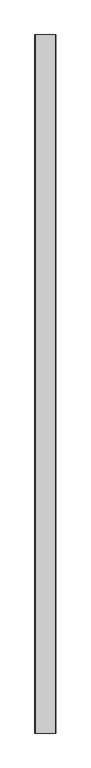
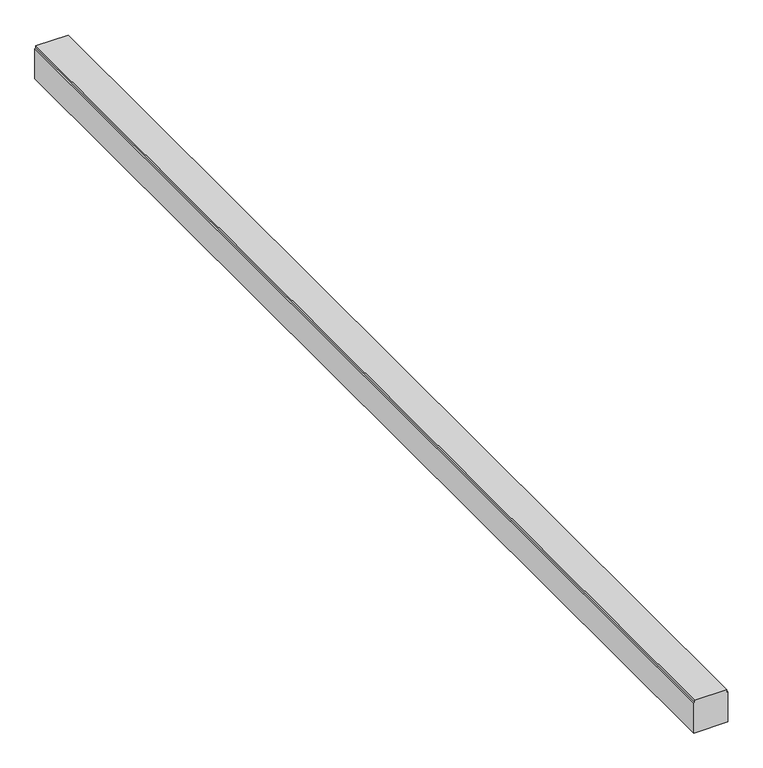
"""IFC4 building model written with IfcOpenShell, lengths in millimetres: proxy geometry, Кабель-каналы_перфорированные : Кабель-канал перфорированный 60х60 перфорация 4/7мм."""

from ifc_helpers import new_model, si_unit, frame, origin, place, context, project, spatial, polyline, outline, extrude, source, transform, mapped, element, save


def generic_models_7fb0075b(model_context):
    return source(origin(), model_context, "Body", "SweptSolid", [
        extrude(outline(polyline([(500.0, 0.0), (555.4686048, 0.0), (556.545727, -1.696289), (560.0, -1.696289), (560.0, -58.1977999), (556.3616607, -58.1977999), (555.4772989, -60.0), (500.0, -60.0), (500.0, 0.0)])), frame((0.0, -2000.0, 0.0), z_axis=(0.0, 1.0, 0.0), x_axis=(0.0, 0.0, 1.0)), (0.0, 0.0, 1.0), 2000.0),
    ])


if __name__ == "__main__":
    model = new_model("IFC4")
    model_context = context("Model", 3, world=origin())
    ifc_project = project(units=[si_unit("LENGTHUNIT", "METRE", prefix="MILLI")], contexts=[model_context])
    site = spatial("IfcSite", under=ifc_project)
    building = spatial("IfcBuilding", under=site)
    placement = place(None, origin())
    generic_models_shape = generic_models_7fb0075b(model_context)
    element("IfcBuildingElementProxy", 1, Name="Кабель-каналы_перфорированные : Кабель-канал перфорированный 60х60 перфорация 4/7мм", ObjectType="Кабель-каналы_перфорированные : Кабель-канал перфорированный 60х60 перфорация 4/7мм", at=placement, inside=building, context=model_context, shape_type="MappedRepresentation", body=[
        mapped(generic_models_shape, transform((0.0, 0.0, 0.0), x_axis=(1.0, 0.0, 0.0), y_axis=(0.0, 1.0, 0.0), z_axis=(0.0, 0.0, 1.0))),
    ])
    save(model, "model.ifc")
